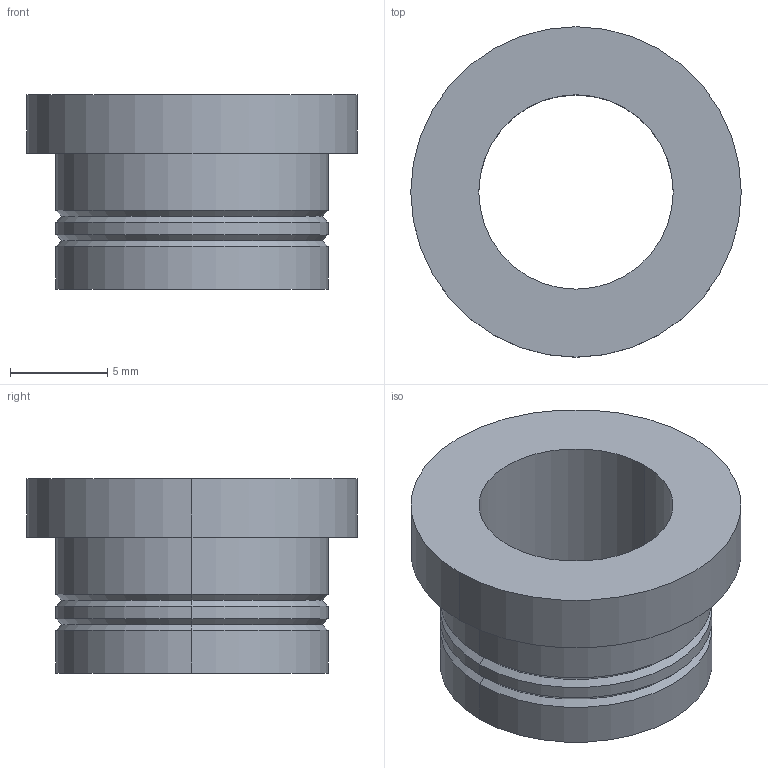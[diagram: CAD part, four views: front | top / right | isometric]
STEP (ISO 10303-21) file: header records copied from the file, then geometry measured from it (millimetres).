
FILE_DESCRIPTION(/* description */ (''),/* implementation_level */ '2;1');
FILE_NAME(/* name */ '3d_sgbt10-10_00012_r00.stp',/* time_stamp */ '2011-01-10T14:11:12+09:00',/* author */ ('MISUMI'),/* organization */ (''),/* preprocessor_version */ 'ST-DEVELOPER v11',/* originating_system */ 'UGS - NX 5.0',/* authorisation */ '');
FILE_SCHEMA (('CONFIG_CONTROL_DESIGN'));
Length unit declared in the file: millimetre
Products named in the file (1): 3d_sgbt10-10_00012_r00
Bounding box: 17 x 17 x 10 mm (x, y, z)
Volume: 965.3 mm3; surface area: 1099.4 mm2
Topology: 1 solids, 1 shells, 21 faces, 42 edges, 24 vertices
Faces by surface type: cylinder 10, cone 8, plane 3
Entity records: 634 total; most frequent: DIRECTION 110, CARTESIAN_POINT 88, ORIENTED_EDGE 84, AXIS2_PLACEMENT_3D 46, EDGE_CURVE 42, EDGE_LOOP 24, VERTEX_POINT 24, CIRCLE 24
